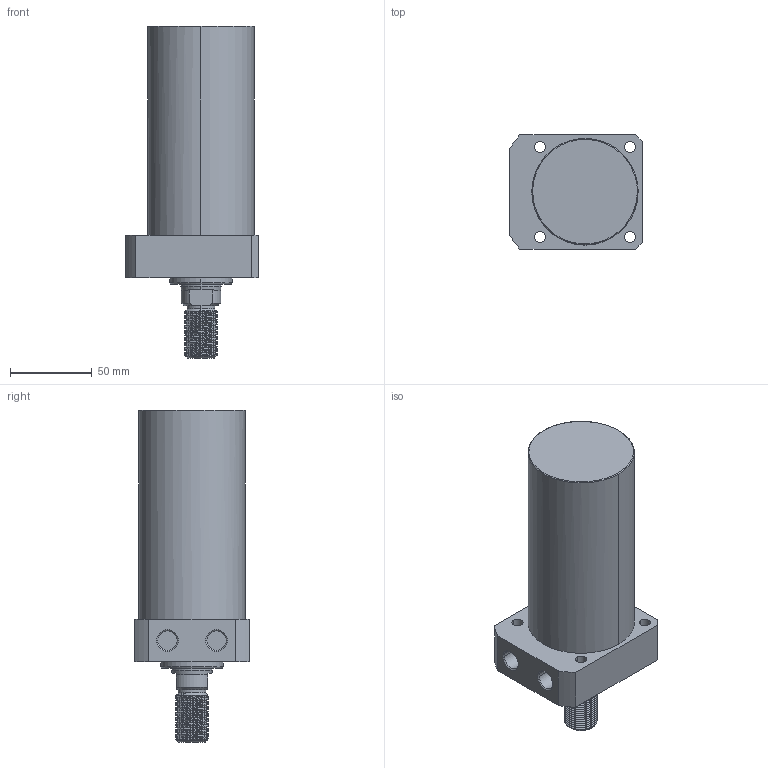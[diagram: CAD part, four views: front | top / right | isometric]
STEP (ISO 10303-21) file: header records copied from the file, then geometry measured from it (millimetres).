
FILE_DESCRIPTION((' '),'2;1');
FILE_NAME( 'TLLR-065CT-095.STEP.stp', '2025-10-24T16:34:59', (' '), ('--- Datakit www.datakit.com---'), ' Datakit CrossCadWare V2024.1 Dec 21 2023', 'Mastercam 2025', ' ');
FILE_SCHEMA(('AUTOMOTIVE_DESIGN { 1 0 10303 214 1 1 1 1 }'));
Length unit declared in the file: millimetre
Products named in the file (1): TLLR-065CT-095
Bounding box: 81 x 70 x 203 mm (x, y, z)
Volume: 581153.1 mm3; surface area: 52760.6 mm2
Topology: 1 solids, 1 shells, 106 faces, 381 edges, 285 vertices
Faces by surface type: cylinder 66, plane 20, cone 16, bspline 2, torus 2
Entity records: 12340 total; most frequent: CARTESIAN_POINT 9090, ORIENTED_EDGE 762, DIRECTION 531, EDGE_CURVE 381, VERTEX_POINT 285, AXIS2_PLACEMENT_3D 214, B_SPLINE_CURVE_WITH_KNOTS 169, EDGE_LOOP 122
